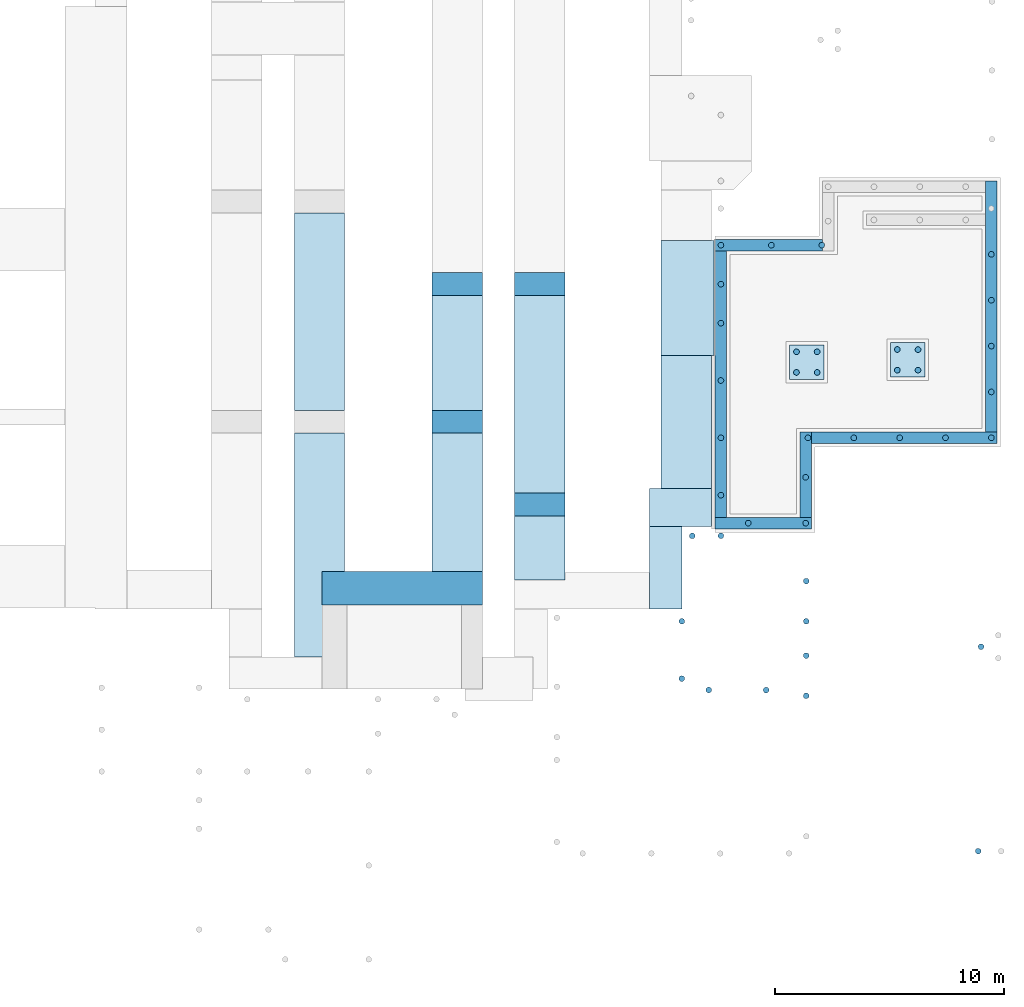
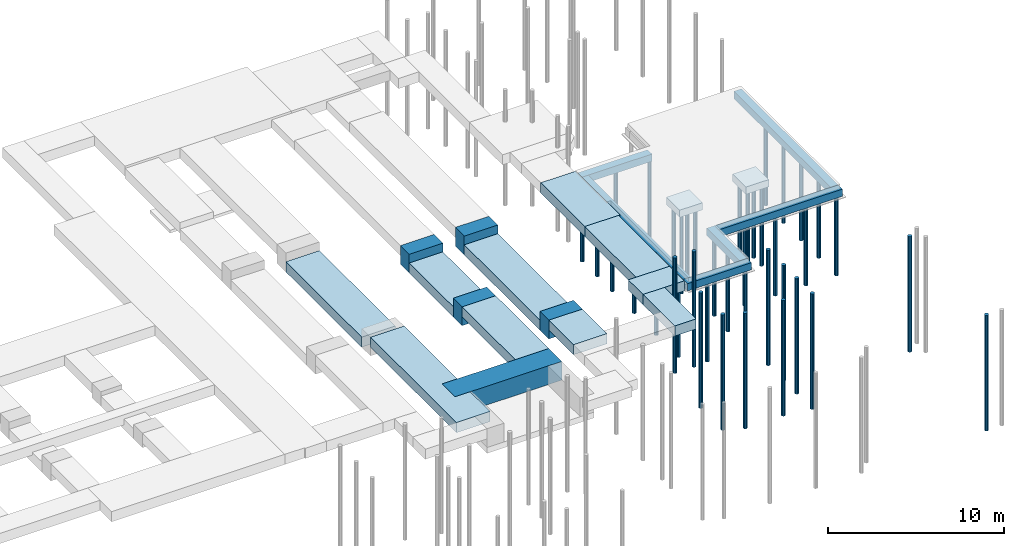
# One storey, part 2 of 4: 63 footings.
"""IFC4 building model written with IfcOpenShell, lengths in metres."""

from ifc_helpers import new_model, entity, si_unit, converted_unit, derived_unit, frame, frame_2d, origin, place, context, subcontext, project, spatial, rectangle, circle, extrude, material, element, save


model = new_model("IFC4")

# Units and contexts
model_context = context("Model", 3, precision=1e-05, world=origin())
body_context = subcontext(model_context, "Body", "Model", "MODEL_VIEW")
ifc_project = project(units=[si_unit("LENGTHUNIT", "METRE"), si_unit("AREAUNIT", "SQUARE_METRE"), si_unit("VOLUMEUNIT", "CUBIC_METRE"), si_unit("MASSUNIT", "GRAM", prefix="KILO"), converted_unit("PLANEANGLEUNIT", "DEGREE", entity("IfcPlaneAngleMeasure", 0.0174532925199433), si_unit("PLANEANGLEUNIT", "RADIAN"), dimensions=[0, 0, 0, 0, 0, 0, 0]), derived_unit("THERMALTRANSMITTANCEUNIT", [(si_unit("POWERUNIT", "WATT"), 1), (si_unit("THERMODYNAMICTEMPERATUREUNIT", "KELVIN"), -1), (si_unit("LENGTHUNIT", "METRE"), -2)]), derived_unit("VOLUMETRICFLOWRATEUNIT", [(si_unit("LENGTHUNIT", "METRE"), 3), (converted_unit("TIMEUNIT", "hour", entity("IfcTimeMeasure", 3600.0), si_unit("TIMEUNIT", "SECOND"), dimensions=[0, 0, 1, 0, 0, 0, 0]), -1), (si_unit("LENGTHUNIT", "METRE"), -1)])], contexts=[model_context])

# Site, building, storey
site_placement = place(None, origin())
site = spatial("IfcSite", under=ifc_project, at=site_placement, Name="3. ASŘ", CompositionType="ELEMENT")
building_placement = place(site_placement, origin())
building = spatial("IfcBuilding", under=site, at=building_placement, Name="Pavilon C", CompositionType="ELEMENT")
storey_placement = place(building_placement, frame((0.0, 0.0, -4.4)))
storey = spatial("IfcBuildingStorey", under=building, at=storey_placement, Name="Základy", CompositionType="ELEMENT", Elevation=-4.4)

# Footings
footing_1_placement = place(storey_placement, frame((35.45, -3.05, 0.0), z_axis=(0.0, 0.0, 1.0), x_axis=(0.0, 1.0, 0.0)))
element("IfcFooting", 1, at=footing_1_placement, inside=storey, PredefinedType="STRIP_FOOTING", context=body_context, shape_type="SweptSolid", body=[
    extrude(rectangle(XDim=2.2, YDim=0.7, at=frame_2d((1.1, 0.35), x_axis=(1.0, 0.0))), frame((0.0, 0.0, 0.0), z_axis=(1.0, 0.0, 0.0), x_axis=(0.0, 1.0, 0.0)), (0.0, 0.0, 1.0), 9.75),
])
footing_2_placement = place(storey_placement, frame((41.45, 0.669999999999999, -0.6), z_axis=(0.0, 0.0, 1.0), x_axis=(-1.0, 0.0, 0.0)))
element("IfcFooting", 2, at=footing_2_placement, inside=storey, PredefinedType="STRIP_FOOTING", context=body_context, shape_type="SweptSolid", body=[
    extrude(rectangle(XDim=1.47, YDim=1.3, at=frame_2d((0.735, 0.65), x_axis=(1.0, 0.0))), frame((0.0, 0.0, 0.0), z_axis=(1.0, 0.0, 0.0), x_axis=(0.0, 1.0, 0.0)), (0.0, 0.0, 1.0), 7.00000000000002),
])
footing_3_placement = place(storey_placement, frame((39.25, 13.7, -0.6), z_axis=(0.0, 0.0, 1.0), x_axis=(0.0, -1.0, 0.0)))
element("IfcFooting", 3, at=footing_3_placement, inside=storey, PredefinedType="STRIP_FOOTING", context=body_context, shape_type="SweptSolid", body=[
    extrude(rectangle(XDim=2.2, YDim=1.3, at=frame_2d((1.1, 0.65), x_axis=(1.0, 0.0))), frame((0.0, 0.0, 0.0), z_axis=(1.0, 0.0, 0.0), x_axis=(0.0, 1.0, 0.0)), (0.0, 0.0, 1.0), 1.0),
])
footing_4_placement = place(storey_placement, frame((41.45, 0.669999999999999, 0.0), z_axis=(0.0, 0.0, 1.0), x_axis=(0.0, 1.0, 0.0)))
element("IfcFooting", 4, at=footing_4_placement, inside=storey, PredefinedType="STRIP_FOOTING", context=body_context, shape_type="SweptSolid", body=[
    extrude(rectangle(XDim=2.2, YDim=0.7, at=frame_2d((1.1, 0.35), x_axis=(1.0, 0.0))), frame((0.0, 0.0, 0.0), z_axis=(1.0, 0.0, 0.0), x_axis=(0.0, 1.0, 0.0)), (0.0, 0.0, 1.0), 6.02999999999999),
])
footing_5_placement = place(storey_placement, frame((39.25, 7.69999999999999, -0.6), z_axis=(0.0, 0.0, 1.0), x_axis=(0.0, -1.0, 0.0)))
element("IfcFooting", 5, at=footing_5_placement, inside=storey, PredefinedType="STRIP_FOOTING", context=body_context, shape_type="SweptSolid", body=[
    extrude(rectangle(XDim=2.2, YDim=1.3, at=frame_2d((1.1, 0.65), x_axis=(1.0, 0.0))), frame((0.0, 0.0, 0.0), z_axis=(1.0, 0.0, 0.0), x_axis=(0.0, 1.0, 0.0)), (0.0, 0.0, 1.0), 1.0),
])
footing_6_placement = place(storey_placement, frame((39.25, 12.7, -0.6), z_axis=(0.0, 0.0, 1.0), x_axis=(0.0, -1.0, 0.0)))
element("IfcFooting", 6, at=footing_6_placement, inside=storey, PredefinedType="STRIP_FOOTING", context=body_context, shape_type="SweptSolid", body=[
    extrude(rectangle(XDim=2.2, YDim=0.7, at=frame_2d((1.1, 0.35), x_axis=(1.0, 0.0))), frame((0.0, 0.0, 0.0), z_axis=(1.0, 0.0, 0.0), x_axis=(0.0, 1.0, 0.0)), (0.0, 0.0, 1.0), 5.0),
])
for number, where, z_axis, x_axis in (
    (7, (42.85, 4.09999999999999, -0.6), (0.0, 0.0, 1.0), (0.0, -1.0, 0.0)),
    (8, (42.85, 13.7, -0.6), (0.0, 0.0, 1.0), (0.0, -1.0, 0.0)),
):
    element("IfcFooting", number, at=place(storey_placement, frame(where, z_axis=z_axis, x_axis=x_axis)), inside=storey, PredefinedType="STRIP_FOOTING", context=body_context, shape_type="SweptSolid", body=[
        extrude(rectangle(XDim=2.2, YDim=1.3, at=frame_2d((1.1, 0.65), x_axis=(1.0, 0.0))), frame((0.0, 0.0, 0.0), z_axis=(1.0, 0.0, 0.0), x_axis=(0.0, 1.0, 0.0)), (0.0, 0.0, 1.0), 1.0),
    ])
footing_7_placement = place(storey_placement, frame((42.85, 12.7, -0.6), z_axis=(0.0, 0.0, 1.0), x_axis=(0.0, -1.0, 0.0)))
element("IfcFooting", 9, at=footing_7_placement, inside=storey, PredefinedType="STRIP_FOOTING", context=body_context, shape_type="SweptSolid", body=[
    extrude(rectangle(XDim=2.2, YDim=0.7, at=frame_2d((1.1, 0.35), x_axis=(1.0, 0.0))), frame((0.0, 0.0, 0.0), z_axis=(1.0, 0.0, 0.0), x_axis=(0.0, 1.0, 0.0)), (0.0, 0.0, 1.0), 8.6),
])
footing_8_placement = place(storey_placement, frame((42.85, 3.09999999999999, 0.0), z_axis=(0.0, 0.0, 1.0), x_axis=(0.0, -1.0, 0.0)))
element("IfcFooting", 10, at=footing_8_placement, inside=storey, PredefinedType="STRIP_FOOTING", context=body_context, shape_type="SweptSolid", body=[
    extrude(rectangle(XDim=2.2, YDim=0.7, at=frame_2d((1.1, 0.35), x_axis=(1.0, 0.0))), frame((0.0, 0.0, 0.0), z_axis=(1.0, 0.0, 0.0), x_axis=(0.0, 1.0, 0.0)), (0.0, 0.0, 1.0), 2.8),
])
footing_9_placement = place(storey_placement, frame((50.15, -0.970000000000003, 0.0), z_axis=(0.0, 0.0, 1.0), x_axis=(0.0, 1.0, 0.0)))
element("IfcFooting", 11, at=footing_9_placement, inside=storey, PredefinedType="STRIP_FOOTING", context=body_context, shape_type="SweptSolid", body=[
    extrude(rectangle(XDim=1.4, YDim=0.7, at=frame_2d((0.7, 0.35), x_axis=(1.0, 0.0))), frame((0.0, 0.0, 0.0), z_axis=(1.0, 0.0, 0.0), x_axis=(0.0, 1.0, 0.0)), (0.0, 0.0, 1.0), 3.6),
])
footing_10_placement = place(storey_placement, frame((51.45, 2.63, 0.0), z_axis=(0.0, 0.0, 1.0), x_axis=(0.0, 1.0, 0.0)))
element("IfcFooting", 12, at=footing_10_placement, inside=storey, PredefinedType="STRIP_FOOTING", context=body_context, shape_type="SweptSolid", body=[
    extrude(rectangle(XDim=2.7, YDim=0.7, at=frame_2d((1.35, 0.35), x_axis=(1.0, 0.0))), frame((0.0, 0.0, 0.0), z_axis=(1.0, 0.0, 0.0), x_axis=(0.0, 1.0, 0.0)), (0.0, 0.0, 1.0), 1.67),
])
footing_11_placement = place(storey_placement, frame((35.4498372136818, 7.7, -0.6), z_axis=(0.0, 0.0, 1.0), x_axis=(0.0, 1.0, 0.0)))
element("IfcFooting", 13, at=footing_11_placement, inside=storey, PredefinedType="STRIP_FOOTING", context=body_context, shape_type="SweptSolid", body=[
    extrude(rectangle(XDim=2.2, YDim=0.7, at=frame_2d((1.1, 0.35), x_axis=(1.0, 0.0))), frame((0.0, 0.0, 0.0), z_axis=(1.0, 0.0, 0.0), x_axis=(0.0, 1.0, 0.0)), (0.0, 0.0, 1.0), 8.6),
])
footing_12_placement = place(storey_placement, frame((51.555, 10.1, 0.0), z_axis=(0.0, 0.0, 1.0), x_axis=(0.0, 1.0, 0.0)))
element("IfcFooting", 14, at=footing_12_placement, inside=storey, PredefinedType="STRIP_FOOTING", context=body_context, shape_type="SweptSolid", body=[
    extrude(rectangle(XDim=2.305, YDim=0.7, at=frame_2d((1.1525, 0.35), x_axis=(1.0, 0.0))), frame((0.0, 0.0, 0.0), z_axis=(1.0, 0.0, 0.0), x_axis=(0.0, 1.0, 0.0)), (0.0, 0.0, 1.0), 4.99999999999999),
])
footing_13_placement = place(storey_placement, frame((51.45, 4.29999999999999, 0.0), z_axis=(0.0, 0.0, 1.0), x_axis=(0.0, 1.0, 0.0)))
element("IfcFooting", 15, at=footing_13_placement, inside=storey, PredefinedType="STRIP_FOOTING", context=body_context, shape_type="SweptSolid", body=[
    extrude(rectangle(XDim=2.2, YDim=0.7, at=frame_2d((1.1, 0.35), x_axis=(1.0, 0.0))), frame((0.0, 0.0, 0.0), z_axis=(1.0, 0.0, 0.0), x_axis=(0.0, 1.0, 0.0)), (0.0, 0.0, 1.0), 5.80000000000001),
])
ifc_material_1 = material(Name="ZELEZOBETONOVÁ KCE")
footing_14_placement = place(storey_placement, frame((54.85, 9.04999999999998, 0.0)))
element("IfcFooting", 16, at=footing_14_placement, inside=storey, material=ifc_material_1, PredefinedType="PAD_FOOTING", context=body_context, shape_type="SweptSolid", body=[
    extrude(rectangle(XDim=1.5, YDim=1.5, at=frame_2d((-0.75, 0.75), x_axis=(0.0, 1.0))), frame((1.5, 0.0, 0.0), z_axis=(0.0, 0.0, 1.0), x_axis=(1.0, 0.0, 0.0)), (0.0, 0.0, 1.0), 0.5),
])
ifc_material_2 = material(Name="ZELEZOBETONOVÁ KCE")
footing_15_placement = place(storey_placement, frame((51.605, 2.53, 0.0), z_axis=(0.0, 0.0, 1.0), x_axis=(1.0, -2.16804458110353e-16, 0.0)))
element("IfcFooting", 17, at=footing_15_placement, inside=storey, material=ifc_material_2, PredefinedType="STRIP_FOOTING", context=body_context, shape_type="SweptSolid", body=[
    extrude(rectangle(XDim=0.5, YDim=0.5, at=frame_2d((0.25, 0.25), x_axis=(1.0, 0.0))), frame((0.0, 0.0, 0.0), z_axis=(1.0, 0.0, 0.0), x_axis=(0.0, 1.0, 0.0)), (0.0, 0.0, 1.0), 4.19499999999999),
])
ifc_material_3 = material(Name="ZELEZOBETONOVÁ KCE")
footing_16_placement = place(storey_placement, frame((55.8, 3.03, 0.0), z_axis=(0.0, 0.0, 1.0), x_axis=(0.0, 1.0, 0.0)))
element("IfcFooting", 18, at=footing_16_placement, inside=storey, material=ifc_material_3, PredefinedType="STRIP_FOOTING", context=body_context, shape_type="SweptSolid", body=[
    extrude(rectangle(XDim=0.5, YDim=0.5, at=frame_2d((0.25, 0.25), x_axis=(1.0, 0.0))), frame((0.0, 0.0, 0.0), z_axis=(1.0, 0.0, 0.0), x_axis=(0.0, 1.0, 0.0)), (0.0, 0.0, 1.0), 3.71999999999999),
])
ifc_material_4 = material(Name="ZELEZOBETONOVÁ KCE")
footing_17_placement = place(storey_placement, frame((55.8, 6.24999999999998, 0.0), z_axis=(0.0, 0.0, 1.0), x_axis=(1.0, -1.12283296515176e-16, 0.0)))
element("IfcFooting", 19, at=footing_17_placement, inside=storey, material=ifc_material_4, PredefinedType="STRIP_FOOTING", context=body_context, shape_type="SweptSolid", body=[
    extrude(rectangle(XDim=0.499999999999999, YDim=0.5, at=frame_2d((0.25, 0.25), x_axis=(1.0, 0.0))), frame((0.0, 0.0, 0.0), z_axis=(1.0, 0.0, 0.0), x_axis=(0.0, 1.0, 0.0)), (0.0, 0.0, 1.0), 8.1),
])
ifc_material_5 = material(Name="ZELEZOBETONOVÁ KCE")
footing_18_placement = place(storey_placement, frame((63.9, 6.74999999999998, 0.0), z_axis=(0.0, 0.0, 1.0), x_axis=(0.0, 1.0, 0.0)))
element("IfcFooting", 20, at=footing_18_placement, inside=storey, material=ifc_material_5, PredefinedType="STRIP_FOOTING", context=body_context, shape_type="SweptSolid", body=[
    extrude(rectangle(XDim=0.5, YDim=0.5, at=frame_2d((0.25, 0.25), x_axis=(1.0, 0.0))), frame((0.0, 0.0, 0.0), z_axis=(1.0, 0.0, 0.0), x_axis=(0.0, 1.0, 0.0)), (0.0, 0.0, 1.0), 10.95),
])
ifc_material_6 = material(Name="ZELEZOBETONOVÁ KCE")
footing_19_placement = place(storey_placement, frame((56.2788883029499, 15.15, 0.0), z_axis=(0.0, 0.0, 1.0), x_axis=(-1.0, 0.0, 0.0)))
element("IfcFooting", 21, at=footing_19_placement, inside=storey, material=ifc_material_6, PredefinedType="STRIP_FOOTING", context=body_context, shape_type="SweptSolid", body=[
    extrude(rectangle(XDim=0.5, YDim=0.5, at=frame_2d((0.25, 0.25), x_axis=(1.0, 0.0))), frame((0.0, 0.0, 0.0), z_axis=(1.0, 0.0, 0.0), x_axis=(0.0, 1.0, 0.0)), (0.0, 0.0, 1.0), 4.67388830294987),
])
ifc_material_7 = material(Name="ZELEZOBETONOVÁ KCE")
footing_20_placement = place(storey_placement, frame((51.605, 14.65, 0.0), z_axis=(0.0, 0.0, 1.0), x_axis=(0.0, -1.0, 0.0)))
element("IfcFooting", 22, at=footing_20_placement, inside=storey, material=ifc_material_7, PredefinedType="STRIP_FOOTING", context=body_context, shape_type="SweptSolid", body=[
    extrude(rectangle(XDim=0.5, YDim=0.5, at=frame_2d((0.25, 0.25), x_axis=(1.0, 0.0))), frame((0.0, 0.0, 0.0), z_axis=(1.0, 0.0, 0.0), x_axis=(0.0, 1.0, 0.0)), (0.0, 0.0, 1.0), 11.62),
])
ifc_material_8 = material(Name="ZELEZOBETONOVÁ KCE")
footing_21_placement = place(storey_placement, frame((59.25, 9.14999999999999, 0.0)))
element("IfcFooting", 23, at=footing_21_placement, inside=storey, material=ifc_material_8, PredefinedType="PAD_FOOTING", context=body_context, shape_type="SweptSolid", body=[
    extrude(rectangle(XDim=1.5, YDim=1.5, at=frame_2d((-0.75, 0.75), x_axis=(0.0, 1.0))), frame((1.5, 0.0, 0.0), z_axis=(0.0, 0.0, 1.0), x_axis=(1.0, 0.0, 0.0)), (0.0, 0.0, 1.0), 0.5),
])
ifc_material_9 = material(Name="ZELEZOBETONOVÁ KCE")
footing_22_placement = place(storey_placement, frame((63.5255159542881, 14.3755159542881, -5.5)))
element("IfcFooting", 24, at=footing_22_placement, inside=storey, material=ifc_material_9, Name="MIKROPILOTA MP2", PredefinedType="PAD_FOOTING", context=body_context, shape_type="SweptSolid", body=[
    extrude(circle(Radius=0.124999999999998, at=frame_2d((0.124999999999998, 0.124999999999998), x_axis=(1.0, 0.0))), frame((-0.000515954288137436, -0.000515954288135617, 0.0), z_axis=(0.0, 0.0, 1.0), x_axis=(1.0, 0.0, 0.0)), (0.0, 0.0, 1.0), 5.5),
])
ifc_material_10 = material(Name="ZELEZOBETONOVÁ KCE")
footing_23_placement = place(storey_placement, frame((56.1305159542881, 14.7755159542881, -5.5)))
element("IfcFooting", 25, at=footing_23_placement, inside=storey, material=ifc_material_10, Name="MIKROPILOTA MP2", PredefinedType="PAD_FOOTING", context=body_context, shape_type="SweptSolid", body=[
    extrude(circle(Radius=0.124999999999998, at=frame_2d((0.124999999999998, 0.124999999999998), x_axis=(1.0, 0.0))), frame((-0.000515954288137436, -0.000515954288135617, 0.0), z_axis=(0.0, 0.0, 1.0), x_axis=(1.0, 0.0, 0.0)), (0.0, 0.0, 1.0), 5.5),
])
ifc_material_11 = material(Name="ZELEZOBETONOVÁ KCE")
footing_24_placement = place(storey_placement, frame((53.9305159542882, 14.7755159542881, -5.5)))
element("IfcFooting", 26, at=footing_24_placement, inside=storey, material=ifc_material_11, Name="MIKROPILOTA MP2", PredefinedType="PAD_FOOTING", context=body_context, shape_type="SweptSolid", body=[
    extrude(circle(Radius=0.124999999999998, at=frame_2d((0.124999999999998, 0.124999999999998), x_axis=(1.0, 0.0))), frame((-0.000515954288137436, -0.000515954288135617, 0.0), z_axis=(0.0, 0.0, 1.0), x_axis=(1.0, 0.0, 0.0)), (0.0, 0.0, 1.0), 5.5),
])
ifc_material_12 = material(Name="ZELEZOBETONOVÁ KCE")
footing_25_placement = place(storey_placement, frame((51.7305159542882, 14.7755159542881, -5.5)))
element("IfcFooting", 27, at=footing_25_placement, inside=storey, material=ifc_material_12, Name="MIKROPILOTA MP2", PredefinedType="PAD_FOOTING", context=body_context, shape_type="SweptSolid", body=[
    extrude(circle(Radius=0.124999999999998, at=frame_2d((0.124999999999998, 0.124999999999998), x_axis=(1.0, 0.0))), frame((-0.000515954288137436, -0.000515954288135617, 0.0), z_axis=(0.0, 0.0, 1.0), x_axis=(1.0, 0.0, 0.0)), (0.0, 0.0, 1.0), 5.5),
])
ifc_material_13 = material(Name="ZELEZOBETONOVÁ KCE")
footing_26_placement = place(storey_placement, frame((51.7305159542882, 13.0755159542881, -5.5)))
element("IfcFooting", 28, at=footing_26_placement, inside=storey, material=ifc_material_13, Name="MIKROPILOTA MP2", PredefinedType="PAD_FOOTING", context=body_context, shape_type="SweptSolid", body=[
    extrude(circle(Radius=0.124999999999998, at=frame_2d((0.124999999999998, 0.124999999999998), x_axis=(1.0, 0.0))), frame((-0.000515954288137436, -0.000515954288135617, 0.0), z_axis=(0.0, 0.0, 1.0), x_axis=(1.0, 0.0, 0.0)), (0.0, 0.0, 1.0), 5.5),
])
ifc_material_14 = material(Name="ZELEZOBETONOVÁ KCE")
footing_27_placement = place(storey_placement, frame((51.7305159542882, 11.3755159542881, -5.5)))
element("IfcFooting", 29, at=footing_27_placement, inside=storey, material=ifc_material_14, Name="MIKROPILOTA MP2", PredefinedType="PAD_FOOTING", context=body_context, shape_type="SweptSolid", body=[
    extrude(circle(Radius=0.124999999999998, at=frame_2d((0.124999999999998, 0.124999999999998), x_axis=(1.0, 0.0))), frame((-0.000515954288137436, -0.000515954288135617, 0.0), z_axis=(0.0, 0.0, 1.0), x_axis=(1.0, 0.0, 0.0)), (0.0, 0.0, 1.0), 5.5),
])
ifc_material_15 = material(Name="ZELEZOBETONOVÁ KCE")
footing_28_placement = place(storey_placement, frame((51.7305159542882, 8.87551595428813, -5.5)))
element("IfcFooting", 30, at=footing_28_placement, inside=storey, material=ifc_material_15, Name="MIKROPILOTA MP2", PredefinedType="PAD_FOOTING", context=body_context, shape_type="SweptSolid", body=[
    extrude(circle(Radius=0.124999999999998, at=frame_2d((0.124999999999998, 0.124999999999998), x_axis=(1.0, 0.0))), frame((-0.000515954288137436, -0.000515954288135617, 0.0), z_axis=(0.0, 0.0, 1.0), x_axis=(1.0, 0.0, 0.0)), (0.0, 0.0, 1.0), 5.5),
])
ifc_material_16 = material(Name="ZELEZOBETONOVÁ KCE")
footing_29_placement = place(storey_placement, frame((51.7305159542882, 6.37551595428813, -5.5)))
element("IfcFooting", 31, at=footing_29_placement, inside=storey, material=ifc_material_16, Name="MIKROPILOTA MP2", PredefinedType="PAD_FOOTING", context=body_context, shape_type="SweptSolid", body=[
    extrude(circle(Radius=0.124999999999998, at=frame_2d((0.124999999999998, 0.124999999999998), x_axis=(1.0, 0.0))), frame((-0.000515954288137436, -0.000515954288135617, 0.0), z_axis=(0.0, 0.0, 1.0), x_axis=(1.0, 0.0, 0.0)), (0.0, 0.0, 1.0), 5.5),
])
ifc_material_17 = material(Name="ZELEZOBETONOVÁ KCE")
footing_30_placement = place(storey_placement, frame((51.7305159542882, 3.87551595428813, -5.5)))
element("IfcFooting", 32, at=footing_30_placement, inside=storey, material=ifc_material_17, Name="MIKROPILOTA MP2", PredefinedType="PAD_FOOTING", context=body_context, shape_type="SweptSolid", body=[
    extrude(circle(Radius=0.124999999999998, at=frame_2d((0.124999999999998, 0.124999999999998), x_axis=(1.0, 0.0))), frame((-0.000515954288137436, -0.000515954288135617, 0.0), z_axis=(0.0, 0.0, 1.0), x_axis=(1.0, 0.0, 0.0)), (0.0, 0.0, 1.0), 5.5),
])
ifc_material_18 = material(Name="ZELEZOBETONOVÁ KCE")
footing_31_placement = place(storey_placement, frame((52.9255159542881, 2.65551595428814, -5.5)))
element("IfcFooting", 33, at=footing_31_placement, inside=storey, material=ifc_material_18, Name="MIKROPILOTA MP2", PredefinedType="PAD_FOOTING", context=body_context, shape_type="SweptSolid", body=[
    extrude(circle(Radius=0.124999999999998, at=frame_2d((0.124999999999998, 0.124999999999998), x_axis=(1.0, 0.0))), frame((-0.000515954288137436, -0.000515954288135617, 0.0), z_axis=(0.0, 0.0, 1.0), x_axis=(1.0, 0.0, 0.0)), (0.0, 0.0, 1.0), 5.5),
])
ifc_material_19 = material(Name="ZELEZOBETONOVÁ KCE")
footing_32_placement = place(storey_placement, frame((55.4255159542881, 2.65551595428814, -5.5)))
element("IfcFooting", 34, at=footing_32_placement, inside=storey, material=ifc_material_19, Name="MIKROPILOTA MP2", PredefinedType="PAD_FOOTING", context=body_context, shape_type="SweptSolid", body=[
    extrude(circle(Radius=0.124999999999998, at=frame_2d((0.124999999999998, 0.124999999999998), x_axis=(1.0, 0.0))), frame((-0.000515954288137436, -0.000515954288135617, 0.0), z_axis=(0.0, 0.0, 1.0), x_axis=(1.0, 0.0, 0.0)), (0.0, 0.0, 1.0), 5.5),
])
ifc_material_20 = material(Name="ZELEZOBETONOVÁ KCE")
footing_33_placement = place(storey_placement, frame((55.4255159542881, 4.65551595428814, -5.5)))
element("IfcFooting", 35, at=footing_33_placement, inside=storey, material=ifc_material_20, Name="MIKROPILOTA MP2", PredefinedType="PAD_FOOTING", context=body_context, shape_type="SweptSolid", body=[
    extrude(circle(Radius=0.124999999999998, at=frame_2d((0.124999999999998, 0.124999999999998), x_axis=(1.0, 0.0))), frame((-0.000515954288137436, -0.000515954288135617, 0.0), z_axis=(0.0, 0.0, 1.0), x_axis=(1.0, 0.0, 0.0)), (0.0, 0.0, 1.0), 5.5),
])
ifc_material_21 = material(Name="ZELEZOBETONOVÁ KCE")
footing_34_placement = place(storey_placement, frame((55.5255159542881, 6.37551595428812, -5.5)))
element("IfcFooting", 36, at=footing_34_placement, inside=storey, material=ifc_material_21, Name="MIKROPILOTA MP2", PredefinedType="PAD_FOOTING", context=body_context, shape_type="SweptSolid", body=[
    extrude(circle(Radius=0.124999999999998, at=frame_2d((0.124999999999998, 0.124999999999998), x_axis=(1.0, 0.0))), frame((-0.000515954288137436, -0.000515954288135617, 0.0), z_axis=(0.0, 0.0, 1.0), x_axis=(1.0, 0.0, 0.0)), (0.0, 0.0, 1.0), 5.5),
])
ifc_material_22 = material(Name="ZELEZOBETONOVÁ KCE")
footing_35_placement = place(storey_placement, frame((57.5255159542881, 6.37551595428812, -5.5)))
element("IfcFooting", 37, at=footing_35_placement, inside=storey, material=ifc_material_22, Name="MIKROPILOTA MP2", PredefinedType="PAD_FOOTING", context=body_context, shape_type="SweptSolid", body=[
    extrude(circle(Radius=0.124999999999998, at=frame_2d((0.124999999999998, 0.124999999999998), x_axis=(1.0, 0.0))), frame((-0.000515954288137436, -0.000515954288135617, 0.0), z_axis=(0.0, 0.0, 1.0), x_axis=(1.0, 0.0, 0.0)), (0.0, 0.0, 1.0), 5.5),
])
ifc_material_23 = material(Name="ZELEZOBETONOVÁ KCE")
footing_36_placement = place(storey_placement, frame((59.5255159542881, 6.37551595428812, -5.5)))
element("IfcFooting", 38, at=footing_36_placement, inside=storey, material=ifc_material_23, Name="MIKROPILOTA MP2", PredefinedType="PAD_FOOTING", context=body_context, shape_type="SweptSolid", body=[
    extrude(circle(Radius=0.124999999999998, at=frame_2d((0.124999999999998, 0.124999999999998), x_axis=(1.0, 0.0))), frame((-0.000515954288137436, -0.000515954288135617, 0.0), z_axis=(0.0, 0.0, 1.0), x_axis=(1.0, 0.0, 0.0)), (0.0, 0.0, 1.0), 5.5),
])
ifc_material_24 = material(Name="ZELEZOBETONOVÁ KCE")
footing_37_placement = place(storey_placement, frame((61.5255159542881, 6.37551595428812, -5.5)))
element("IfcFooting", 39, at=footing_37_placement, inside=storey, material=ifc_material_24, Name="MIKROPILOTA MP2", PredefinedType="PAD_FOOTING", context=body_context, shape_type="SweptSolid", body=[
    extrude(circle(Radius=0.124999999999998, at=frame_2d((0.124999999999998, 0.124999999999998), x_axis=(1.0, 0.0))), frame((-0.000515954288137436, -0.000515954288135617, 0.0), z_axis=(0.0, 0.0, 1.0), x_axis=(1.0, 0.0, 0.0)), (0.0, 0.0, 1.0), 5.5),
])
ifc_material_25 = material(Name="ZELEZOBETONOVÁ KCE")
footing_38_placement = place(storey_placement, frame((63.5255159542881, 6.37551595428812, -5.5)))
element("IfcFooting", 40, at=footing_38_placement, inside=storey, material=ifc_material_25, Name="MIKROPILOTA MP2", PredefinedType="PAD_FOOTING", context=body_context, shape_type="SweptSolid", body=[
    extrude(circle(Radius=0.124999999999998, at=frame_2d((0.124999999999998, 0.124999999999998), x_axis=(1.0, 0.0))), frame((-0.000515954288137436, -0.000515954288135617, 0.0), z_axis=(0.0, 0.0, 1.0), x_axis=(1.0, 0.0, 0.0)), (0.0, 0.0, 1.0), 5.5),
])
ifc_material_26 = material(Name="ZELEZOBETONOVÁ KCE")
footing_39_placement = place(storey_placement, frame((63.5255159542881, 8.37551595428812, -5.5)))
element("IfcFooting", 41, at=footing_39_placement, inside=storey, material=ifc_material_26, Name="MIKROPILOTA MP2", PredefinedType="PAD_FOOTING", context=body_context, shape_type="SweptSolid", body=[
    extrude(circle(Radius=0.124999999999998, at=frame_2d((0.124999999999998, 0.124999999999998), x_axis=(1.0, 0.0))), frame((-0.000515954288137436, -0.000515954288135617, 0.0), z_axis=(0.0, 0.0, 1.0), x_axis=(1.0, 0.0, 0.0)), (0.0, 0.0, 1.0), 5.5),
])
ifc_material_27 = material(Name="ZELEZOBETONOVÁ KCE")
footing_40_placement = place(storey_placement, frame((63.5255159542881, 10.3755159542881, -5.5)))
element("IfcFooting", 42, at=footing_40_placement, inside=storey, material=ifc_material_27, Name="MIKROPILOTA MP2", PredefinedType="PAD_FOOTING", context=body_context, shape_type="SweptSolid", body=[
    extrude(circle(Radius=0.124999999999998, at=frame_2d((0.124999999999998, 0.124999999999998), x_axis=(1.0, 0.0))), frame((-0.000515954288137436, -0.000515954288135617, 0.0), z_axis=(0.0, 0.0, 1.0), x_axis=(1.0, 0.0, 0.0)), (0.0, 0.0, 1.0), 5.5),
])
ifc_material_28 = material(Name="ZELEZOBETONOVÁ KCE")
footing_41_placement = place(storey_placement, frame((63.5255159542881, 12.3755159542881, -5.5)))
element("IfcFooting", 43, at=footing_41_placement, inside=storey, material=ifc_material_28, Name="MIKROPILOTA MP2", PredefinedType="PAD_FOOTING", context=body_context, shape_type="SweptSolid", body=[
    extrude(circle(Radius=0.124999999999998, at=frame_2d((0.124999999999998, 0.124999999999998), x_axis=(1.0, 0.0))), frame((-0.000515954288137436, -0.000515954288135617, 0.0), z_axis=(0.0, 0.0, 1.0), x_axis=(1.0, 0.0, 0.0)), (0.0, 0.0, 1.0), 5.5),
])
ifc_material_29 = material(Name="ZELEZOBETONOVÁ KCE")
footing_42_placement = place(storey_placement, frame((59.4255159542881, 9.32551595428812, -5.5)))
element("IfcFooting", 44, at=footing_42_placement, inside=storey, material=ifc_material_29, Name="MIKROPILOTA MP2", PredefinedType="PAD_FOOTING", context=body_context, shape_type="SweptSolid", body=[
    extrude(circle(Radius=0.124999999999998, at=frame_2d((0.124999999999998, 0.124999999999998), x_axis=(1.0, 0.0))), frame((-0.000515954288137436, -0.000515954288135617, 0.0), z_axis=(0.0, 0.0, 1.0), x_axis=(1.0, 0.0, 0.0)), (0.0, 0.0, 1.0), 5.5),
])
ifc_material_30 = material(Name="ZELEZOBETONOVÁ KCE")
footing_43_placement = place(storey_placement, frame((59.4255159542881, 10.2255159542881, -5.5)))
element("IfcFooting", 45, at=footing_43_placement, inside=storey, material=ifc_material_30, Name="MIKROPILOTA MP2", PredefinedType="PAD_FOOTING", context=body_context, shape_type="SweptSolid", body=[
    extrude(circle(Radius=0.124999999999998, at=frame_2d((0.124999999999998, 0.124999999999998), x_axis=(1.0, 0.0))), frame((-0.000515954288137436, -0.000515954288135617, 0.0), z_axis=(0.0, 0.0, 1.0), x_axis=(1.0, 0.0, 0.0)), (0.0, 0.0, 1.0), 5.5),
])
ifc_material_31 = material(Name="ZELEZOBETONOVÁ KCE")
footing_44_placement = place(storey_placement, frame((60.3255159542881, 10.2255159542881, -5.5)))
element("IfcFooting", 46, at=footing_44_placement, inside=storey, material=ifc_material_31, Name="MIKROPILOTA MP2", PredefinedType="PAD_FOOTING", context=body_context, shape_type="SweptSolid", body=[
    extrude(circle(Radius=0.124999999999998, at=frame_2d((0.124999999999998, 0.124999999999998), x_axis=(1.0, 0.0))), frame((-0.000515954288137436, -0.000515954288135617, 0.0), z_axis=(0.0, 0.0, 1.0), x_axis=(1.0, 0.0, 0.0)), (0.0, 0.0, 1.0), 5.5),
])
ifc_material_32 = material(Name="ZELEZOBETONOVÁ KCE")
footing_45_placement = place(storey_placement, frame((60.3255159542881, 9.32551595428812, -5.5)))
element("IfcFooting", 47, at=footing_45_placement, inside=storey, material=ifc_material_32, Name="MIKROPILOTA MP2", PredefinedType="PAD_FOOTING", context=body_context, shape_type="SweptSolid", body=[
    extrude(circle(Radius=0.124999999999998, at=frame_2d((0.124999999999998, 0.124999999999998), x_axis=(1.0, 0.0))), frame((-0.000515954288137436, -0.000515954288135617, 0.0), z_axis=(0.0, 0.0, 1.0), x_axis=(1.0, 0.0, 0.0)), (0.0, 0.0, 1.0), 5.5),
])
ifc_material_33 = material(Name="ZELEZOBETONOVÁ KCE")
footing_46_placement = place(storey_placement, frame((55.0255159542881, 9.22551595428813, -5.5)))
element("IfcFooting", 48, at=footing_46_placement, inside=storey, material=ifc_material_33, Name="MIKROPILOTA MP2", PredefinedType="PAD_FOOTING", context=body_context, shape_type="SweptSolid", body=[
    extrude(circle(Radius=0.124999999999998, at=frame_2d((0.124999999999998, 0.124999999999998), x_axis=(1.0, 0.0))), frame((-0.000515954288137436, -0.000515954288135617, 0.0), z_axis=(0.0, 0.0, 1.0), x_axis=(1.0, 0.0, 0.0)), (0.0, 0.0, 1.0), 5.5),
])
ifc_material_34 = material(Name="ZELEZOBETONOVÁ KCE")
footing_47_placement = place(storey_placement, frame((55.0255159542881, 10.1255159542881, -5.5)))
element("IfcFooting", 49, at=footing_47_placement, inside=storey, material=ifc_material_34, Name="MIKROPILOTA MP2", PredefinedType="PAD_FOOTING", context=body_context, shape_type="SweptSolid", body=[
    extrude(circle(Radius=0.124999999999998, at=frame_2d((0.124999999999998, 0.124999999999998), x_axis=(1.0, 0.0))), frame((-0.000515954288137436, -0.000515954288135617, 0.0), z_axis=(0.0, 0.0, 1.0), x_axis=(1.0, 0.0, 0.0)), (0.0, 0.0, 1.0), 5.5),
])
ifc_material_35 = material(Name="ZELEZOBETONOVÁ KCE")
footing_48_placement = place(storey_placement, frame((55.9255159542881, 9.22551595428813, -5.5)))
element("IfcFooting", 50, at=footing_48_placement, inside=storey, material=ifc_material_35, Name="MIKROPILOTA MP2", PredefinedType="PAD_FOOTING", context=body_context, shape_type="SweptSolid", body=[
    extrude(circle(Radius=0.124999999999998, at=frame_2d((0.124999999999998, 0.124999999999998), x_axis=(1.0, 0.0))), frame((-0.000515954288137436, -0.000515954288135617, 0.0), z_axis=(0.0, 0.0, 1.0), x_axis=(1.0, 0.0, 0.0)), (0.0, 0.0, 1.0), 5.5),
])
ifc_material_36 = material(Name="ZELEZOBETONOVÁ KCE")
footing_49_placement = place(storey_placement, frame((55.9255159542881, 10.1255159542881, -5.5)))
element("IfcFooting", 51, at=footing_49_placement, inside=storey, material=ifc_material_36, Name="MIKROPILOTA MP2", PredefinedType="PAD_FOOTING", context=body_context, shape_type="SweptSolid", body=[
    extrude(circle(Radius=0.124999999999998, at=frame_2d((0.124999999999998, 0.124999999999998), x_axis=(1.0, 0.0))), frame((-0.000515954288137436, -0.000515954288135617, 0.0), z_axis=(0.0, 0.0, 1.0), x_axis=(1.0, 0.0, 0.0)), (0.0, 0.0, 1.0), 5.5),
])
ifc_material_37 = material(Name="ZELEZOBETONOVÁ KCE")
footing_50_placement = place(storey_placement, frame((63.0755159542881, -2.73448404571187, -5.1)))
element("IfcFooting", 52, at=footing_50_placement, inside=storey, material=ifc_material_37, Name="MIKROPILOTA MP1", PredefinedType="PAD_FOOTING", context=body_context, shape_type="SweptSolid", body=[
    extrude(circle(Radius=0.124999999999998, at=frame_2d((0.124999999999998, 0.124999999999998), x_axis=(1.0, 0.0))), frame((-0.000515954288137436, -0.000515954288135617, 0.0), z_axis=(0.0, 0.0, 1.0), x_axis=(1.0, 0.0, 0.0)), (0.0, 0.0, 1.0), 8.0),
])
ifc_material_38 = material(Name="ZELEZOBETONOVÁ KCE")
footing_51_placement = place(storey_placement, frame((62.9505159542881, -11.6494840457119, -5.1)))
element("IfcFooting", 53, at=footing_51_placement, inside=storey, material=ifc_material_38, Name="MIKROPILOTA MP1", PredefinedType="PAD_FOOTING", context=body_context, shape_type="SweptSolid", body=[
    extrude(circle(Radius=0.124999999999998, at=frame_2d((0.124999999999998, 0.124999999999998), x_axis=(1.0, 0.0))), frame((-0.000515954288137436, -0.000515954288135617, 0.0), z_axis=(0.0, 0.0, 1.0), x_axis=(1.0, 0.0, 0.0)), (0.0, 0.0, 1.0), 8.0),
])
ifc_material_39 = material(Name="ZELEZOBETONOVÁ KCE")
footing_52_placement = place(storey_placement, frame((50.4805159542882, 2.10051595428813, -5.1)))
element("IfcFooting", 54, at=footing_52_placement, inside=storey, material=ifc_material_39, Name="MIKROPILOTA MP1", PredefinedType="PAD_FOOTING", context=body_context, shape_type="SweptSolid", body=[
    extrude(circle(Radius=0.124999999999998, at=frame_2d((0.124999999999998, 0.124999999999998), x_axis=(1.0, 0.0))), frame((-0.000515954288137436, -0.000515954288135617, 0.0), z_axis=(0.0, 0.0, 1.0), x_axis=(1.0, 0.0, 0.0)), (0.0, 0.0, 1.0), 8.0),
])
ifc_material_40 = material(Name="ZELEZOBETONOVÁ KCE")
footing_53_placement = place(storey_placement, frame((51.7305159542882, 2.10051595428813, -5.1)))
element("IfcFooting", 55, at=footing_53_placement, inside=storey, material=ifc_material_40, Name="MIKROPILOTA MP1", PredefinedType="PAD_FOOTING", context=body_context, shape_type="SweptSolid", body=[
    extrude(circle(Radius=0.124999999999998, at=frame_2d((0.124999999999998, 0.124999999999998), x_axis=(1.0, 0.0))), frame((-0.000515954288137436, -0.000515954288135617, 0.0), z_axis=(0.0, 0.0, 1.0), x_axis=(1.0, 0.0, 0.0)), (0.0, 0.0, 1.0), 8.0),
])
ifc_material_41 = material(Name="ZELEZOBETONOVÁ KCE")
footing_54_placement = place(storey_placement, frame((55.4505159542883, 0.12551595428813, -5.1)))
element("IfcFooting", 56, at=footing_54_placement, inside=storey, material=ifc_material_41, Name="MIKROPILOTA MP1", PredefinedType="PAD_FOOTING", context=body_context, shape_type="SweptSolid", body=[
    extrude(circle(Radius=0.124999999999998, at=frame_2d((0.124999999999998, 0.124999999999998), x_axis=(1.0, 0.0))), frame((-0.000515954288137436, -0.000515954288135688, 0.0), z_axis=(0.0, 0.0, 1.0), x_axis=(1.0, 0.0, 0.0)), (0.0, 0.0, 1.0), 8.0),
])
ifc_material_42 = material(Name="ZELEZOBETONOVÁ KCE")
footing_55_placement = place(storey_placement, frame((55.4505159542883, -1.62448404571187, -5.1)))
element("IfcFooting", 57, at=footing_55_placement, inside=storey, material=ifc_material_42, Name="MIKROPILOTA MP1", PredefinedType="PAD_FOOTING", context=body_context, shape_type="SweptSolid", body=[
    extrude(circle(Radius=0.124999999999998, at=frame_2d((0.124999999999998, 0.124999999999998), x_axis=(1.0, 0.0))), frame((-0.000515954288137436, -0.000515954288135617, 0.0), z_axis=(0.0, 0.0, 1.0), x_axis=(1.0, 0.0, 0.0)), (0.0, 0.0, 1.0), 8.0),
])
ifc_material_43 = material(Name="ZELEZOBETONOVÁ KCE")
footing_56_placement = place(storey_placement, frame((55.4505159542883, -3.12448404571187, -5.1)))
element("IfcFooting", 58, at=footing_56_placement, inside=storey, material=ifc_material_43, Name="MIKROPILOTA MP1", PredefinedType="PAD_FOOTING", context=body_context, shape_type="SweptSolid", body=[
    extrude(circle(Radius=0.124999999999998, at=frame_2d((0.124999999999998, 0.124999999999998), x_axis=(1.0, 0.0))), frame((-0.000515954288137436, -0.000515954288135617, 0.0), z_axis=(0.0, 0.0, 1.0), x_axis=(1.0, 0.0, 0.0)), (0.0, 0.0, 1.0), 8.0),
])
ifc_material_44 = material(Name="ZELEZOBETONOVÁ KCE")
footing_57_placement = place(storey_placement, frame((55.4505159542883, -4.87448404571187, -5.1)))
element("IfcFooting", 59, at=footing_57_placement, inside=storey, material=ifc_material_44, Name="MIKROPILOTA MP1", PredefinedType="PAD_FOOTING", context=body_context, shape_type="SweptSolid", body=[
    extrude(circle(Radius=0.124999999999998, at=frame_2d((0.124999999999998, 0.124999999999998), x_axis=(1.0, 0.0))), frame((-0.000515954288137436, -0.000515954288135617, 0.0), z_axis=(0.0, 0.0, 1.0), x_axis=(1.0, 0.0, 0.0)), (0.0, 0.0, 1.0), 8.0),
])
ifc_material_45 = material(Name="ZELEZOBETONOVÁ KCE")
footing_58_placement = place(storey_placement, frame((53.7005159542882, -4.62448404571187, -5.1)))
element("IfcFooting", 60, at=footing_58_placement, inside=storey, material=ifc_material_45, Name="MIKROPILOTA MP1", PredefinedType="PAD_FOOTING", context=body_context, shape_type="SweptSolid", body=[
    extrude(circle(Radius=0.124999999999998, at=frame_2d((0.124999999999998, 0.124999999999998), x_axis=(1.0, 0.0))), frame((-0.000515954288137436, -0.000515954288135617, 0.0), z_axis=(0.0, 0.0, 1.0), x_axis=(1.0, 0.0, 0.0)), (0.0, 0.0, 1.0), 8.0),
])
ifc_material_46 = material(Name="ZELEZOBETONOVÁ KCE")
footing_59_placement = place(storey_placement, frame((51.2005159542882, -4.62448404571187, -5.1)))
element("IfcFooting", 61, at=footing_59_placement, inside=storey, material=ifc_material_46, Name="MIKROPILOTA MP1", PredefinedType="PAD_FOOTING", context=body_context, shape_type="SweptSolid", body=[
    extrude(circle(Radius=0.124999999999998, at=frame_2d((0.124999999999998, 0.124999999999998), x_axis=(1.0, 0.0))), frame((-0.000515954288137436, -0.000515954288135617, 0.0), z_axis=(0.0, 0.0, 1.0), x_axis=(1.0, 0.0, 0.0)), (0.0, 0.0, 1.0), 8.0),
])
ifc_material_47 = material(Name="ZELEZOBETONOVÁ KCE")
footing_60_placement = place(storey_placement, frame((50.0255159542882, -4.12448404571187, -5.1)))
element("IfcFooting", 62, at=footing_60_placement, inside=storey, material=ifc_material_47, Name="MIKROPILOTA MP1", PredefinedType="PAD_FOOTING", context=body_context, shape_type="SweptSolid", body=[
    extrude(circle(Radius=0.124999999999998, at=frame_2d((0.124999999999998, 0.124999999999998), x_axis=(1.0, 0.0))), frame((-0.000515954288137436, -0.000515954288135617, 0.0), z_axis=(0.0, 0.0, 1.0), x_axis=(1.0, 0.0, 0.0)), (0.0, 0.0, 1.0), 8.0),
])
ifc_material_48 = material(Name="ZELEZOBETONOVÁ KCE")
footing_61_placement = place(storey_placement, frame((50.0255159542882, -1.62448404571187, -5.1)))
element("IfcFooting", 63, at=footing_61_placement, inside=storey, material=ifc_material_48, Name="MIKROPILOTA MP1", PredefinedType="PAD_FOOTING", context=body_context, shape_type="SweptSolid", body=[
    extrude(circle(Radius=0.124999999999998, at=frame_2d((0.124999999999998, 0.124999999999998), x_axis=(1.0, 0.0))), frame((-0.000515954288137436, -0.000515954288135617, 0.0), z_axis=(0.0, 0.0, 1.0), x_axis=(1.0, 0.0, 0.0)), (0.0, 0.0, 1.0), 8.0),
])

save(model, "model.ifc")
